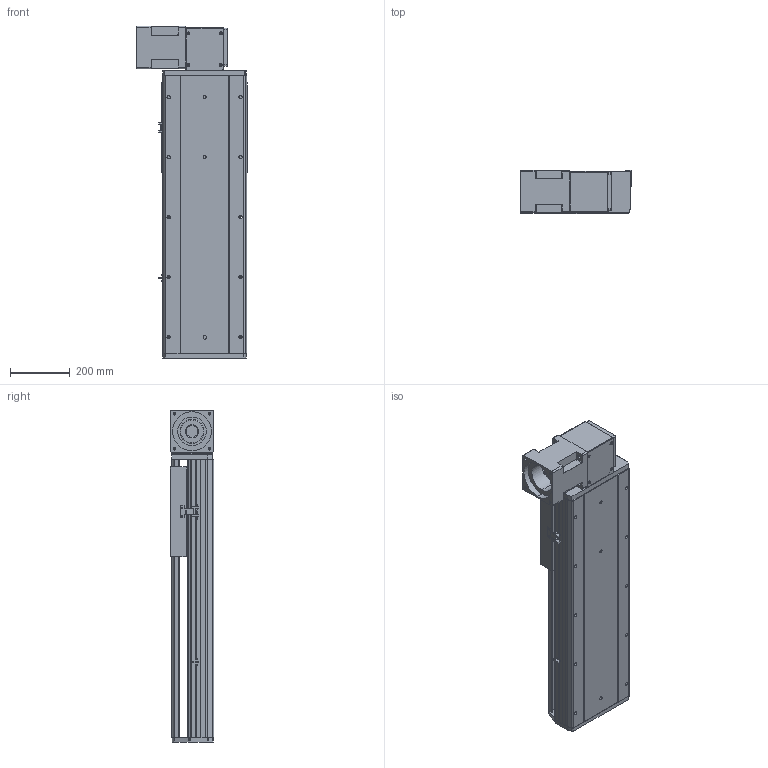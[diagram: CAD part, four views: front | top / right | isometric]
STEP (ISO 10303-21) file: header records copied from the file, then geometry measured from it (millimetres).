
FILE_DESCRIPTION (( 'STEP AP214' ), '1' );
FILE_NAME ('RTB28R-XX-500-BR-M100-XX-C4.STEP', '2025-12-22T01:07:42', ( '' ), ( '' ), 'SwSTEP 2.0', 'SolidWorks 2018', '' );
FILE_SCHEMA (( 'AUTOMOTIVE_DESIGN' ));
Length unit declared in the file: millimetre
Products named in the file (4): RTB28R-XX-500-BR-M100-XX-C4; RTB28S-GY-004^RTB28R-XX-XX-BR-M100-XX-C4; RTB28S-GY-008^RTB28R-XX-XX-BR-M100-XX-C4; RTB28S-GY-011^RTB28R-XX-XX-BR-M100-XX-C4
Assembly tree (3 placements, depth 2):
  RTB28R-XX-500-BR-M100-XX-C4
    RTB28S-GY-011^RTB28R-XX-XX-BR-M100-XX-C4
    RTB28S-GY-004^RTB28R-XX-XX-BR-M100-XX-C4
    RTB28S-GY-008^RTB28R-XX-XX-BR-M100-XX-C4
Bounding box: 370 x 145 x 1107 mm (x, y, z)
Volume: 21745651.5 mm3; surface area: 2149610.4 mm2
Topology: 3 solids, 4 shells, 958 faces, 2520 edges, 1616 vertices
Faces by surface type: plane 450, cylinder 337, bspline 87, cone 80, torus 4
Entity records: 40744 total; most frequent: CARTESIAN_POINT 10795, ORIENTED_EDGE 4976, DIRECTION 4800, EDGE_CURVE 2488, AXIS2_PLACEMENT_3D 1629, VERTEX_POINT 1616, LINE 1542, VECTOR 1542
